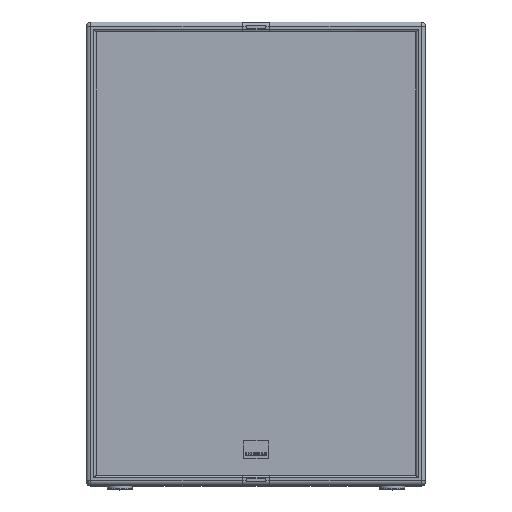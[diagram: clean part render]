
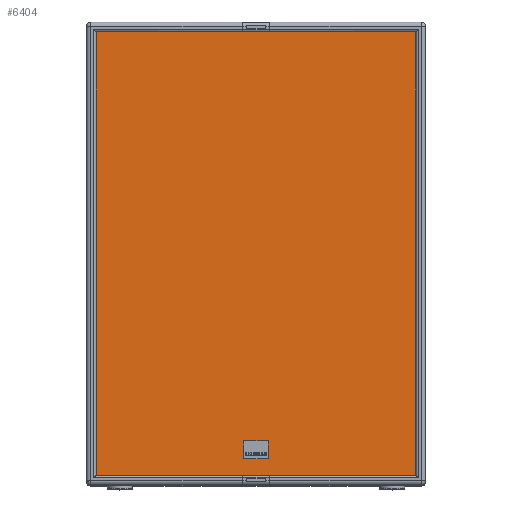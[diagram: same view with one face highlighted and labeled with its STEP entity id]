
A CAD part, top view. The second image highlights one B-rep face of the part: STEP entity #6404.
In plain terms, the highlighted planar face has unit normal (0, 0, 1) as drawn and (0, -1, 0) by its records, which use the part's own axes.
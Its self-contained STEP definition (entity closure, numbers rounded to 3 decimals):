
#6404 = ADVANCED_FACE ( 'NONE', ( #25263 ), #25262, .T. ) ;
#6405 = EDGE_LOOP ( 'NONE', ( #6406, #6410, #6413, #6467 ) ) ;
#6406 = ORIENTED_EDGE ( 'NONE', *, *, #6407, .F. ) ;
#6407 = EDGE_CURVE ( 'NONE', #6408, #6409, #25247, .T. ) ;
#6408 = VERTEX_POINT ( 'NONE', #25242 ) ;
#6409 = VERTEX_POINT ( 'NONE', #25241 ) ;
#6410 = ORIENTED_EDGE ( 'NONE', *, *, #6411, .F. ) ;
#6411 = EDGE_CURVE ( 'NONE', #6412, #6408, #25235, .T. ) ;
#6412 = VERTEX_POINT ( 'NONE', #25230 ) ;
#6413 = ORIENTED_EDGE ( 'NONE', *, *, #6414, .T. ) ;
#6414 = EDGE_CURVE ( 'NONE', #6412, #6466, #25226, .T. ) ;
#6466 = VERTEX_POINT ( 'NONE', #25484 ) ;
#6467 = ORIENTED_EDGE ( 'NONE', *, *, #6468, .F. ) ;
#6468 = EDGE_CURVE ( 'NONE', #6409, #6466, #25480, .T. ) ;
#25222 = DIRECTION ( 'NONE',  ( -1., 0., 0. ) ) ;
#25223 = VECTOR ( 'NONE', #25222, 1000. ) ;
#25224 = CARTESIAN_POINT ( 'NONE',  ( 15., 4., 668. ) ) ;
#25226 = LINE ( 'NONE', #25224, #25223 ) ;
#25230 = CARTESIAN_POINT ( 'NONE',  ( 497., 4., 668. ) ) ;
#25231 = DIRECTION ( 'NONE',  ( 0., 0., -1. ) ) ;
#25232 = VECTOR ( 'NONE', #25231, 1000. ) ;
#25234 = CARTESIAN_POINT ( 'NONE',  ( 497., 4., 0. ) ) ;
#25235 = LINE ( 'NONE', #25234, #25232 ) ;
#25241 = CARTESIAN_POINT ( 'NONE',  ( 15., 4., 0. ) ) ;
#25242 = CARTESIAN_POINT ( 'NONE',  ( 497., 4., 0. ) ) ;
#25243 = DIRECTION ( 'NONE',  ( -1., 0., 0. ) ) ;
#25244 = VECTOR ( 'NONE', #25243, 1000. ) ;
#25246 = CARTESIAN_POINT ( 'NONE',  ( 256., 4., 0. ) ) ;
#25247 = LINE ( 'NONE', #25246, #25244 ) ;
#25252 = DIRECTION ( 'NONE',  ( 0., 0., -1. ) ) ;
#25253 = DIRECTION ( 'NONE',  ( 0., -1., 0. ) ) ;
#25254 = CARTESIAN_POINT ( 'NONE',  ( 497., 4., 0. ) ) ;
#25255 = AXIS2_PLACEMENT_3D ( 'NONE', #25254, #25253, #25252 ) ;
#25262 = PLANE ( 'NONE',  #25255 ) ;
#25263 = FACE_OUTER_BOUND ( 'NONE', #6405, .T. ) ;
#25475 = DIRECTION ( 'NONE',  ( 0., 0., 1. ) ) ;
#25477 = VECTOR ( 'NONE', #25475, 1000. ) ;
#25478 = CARTESIAN_POINT ( 'NONE',  ( 15., 4., 0. ) ) ;
#25480 = LINE ( 'NONE', #25478, #25477 ) ;
#25484 = CARTESIAN_POINT ( 'NONE',  ( 15., 4., 668. ) ) ;
